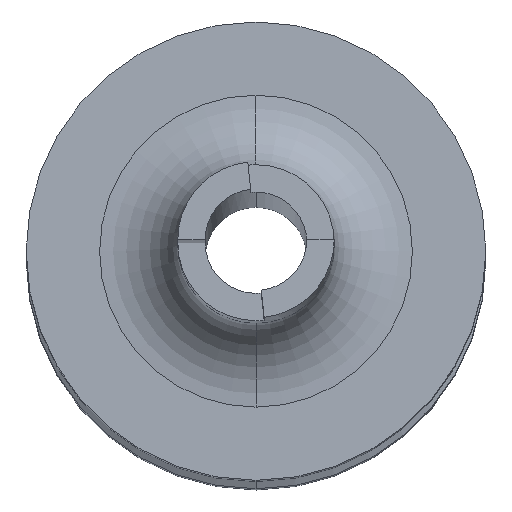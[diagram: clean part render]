
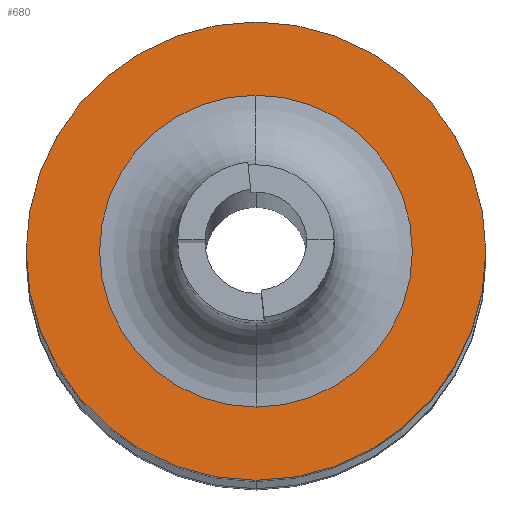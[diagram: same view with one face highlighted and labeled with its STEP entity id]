
A CAD part, left-side view. The second image highlights one B-rep face of the part: STEP entity #680.
In plain terms, the highlighted planar face has unit normal (-0.997, 0, 0.077).
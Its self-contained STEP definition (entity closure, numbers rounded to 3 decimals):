
#191=CARTESIAN_POINT('',(1259.479,0.,90.055));
#192=DIRECTION('',(0.997,0.,-0.077));
#193=DIRECTION('',(-0.077,0.,-0.997));
#194=AXIS2_PLACEMENT_3D('',#191,#192,#193);
#196=CARTESIAN_POINT('',(1259.479,0.,90.055));
#197=DIRECTION('',(-0.997,0.,0.077));
#198=DIRECTION('',(-0.077,0.,-0.997));
#199=AXIS2_PLACEMENT_3D('',#196,#197,#198);
#201=CARTESIAN_POINT('',(1259.479,0.,90.055));
#202=DIRECTION('',(0.997,0.,-0.077));
#203=DIRECTION('',(0.077,0.,0.997));
#204=AXIS2_PLACEMENT_3D('',#201,#202,#203);
#206=CARTESIAN_POINT('',(1259.479,0.,90.055));
#207=DIRECTION('',(0.997,0.,-0.077));
#208=DIRECTION('',(-0.077,0.,-0.997));
#209=AXIS2_PLACEMENT_3D('',#206,#207,#208);
#341=CARTESIAN_POINT('',(1258.343,0.,75.403));
#342=VERTEX_POINT('',#341);
#353=CARTESIAN_POINT('',(1260.615,0.,104.707));
#354=VERTEX_POINT('',#353);
#391=CARTESIAN_POINT('',(1260.252,0.,
100.025));
#392=CARTESIAN_POINT('',(1258.706,0.,
80.085));
#393=VERTEX_POINT('',#391);
#394=VERTEX_POINT('',#392);
#665=CARTESIAN_POINT('',(1259.479,0.,90.055));
#666=DIRECTION('',(-0.997,0.,0.077));
#667=DIRECTION('',(-0.077,0.,-0.997));
#668=AXIS2_PLACEMENT_3D('',#665,#666,#667);
#669=PLANE('',#668);
#670=ORIENTED_EDGE('',*,*,#647,.T.);
#671=ORIENTED_EDGE('',*,*,#658,.F.);
#672=EDGE_LOOP('',(#670,#671));
#673=FACE_OUTER_BOUND('',#672,.F.);
#675=ORIENTED_EDGE('',*,*,#674,.F.);
#677=ORIENTED_EDGE('',*,*,#676,.F.);
#678=EDGE_LOOP('',(#675,#677));
#679=FACE_BOUND('',#678,.F.);
#680=ADVANCED_FACE('',(#673,#679),#669,.T.);
#195=CIRCLE('',#194,14.696);
#200=CIRCLE('',#199,14.696);
#205=CIRCLE('',#204,10.);
#210=CIRCLE('',#209,10.);
#647=EDGE_CURVE('',#342,#354,#195,.T.);
#658=EDGE_CURVE('',#342,#354,#200,.T.);
#674=EDGE_CURVE('',#393,#394,#205,.T.);
#676=EDGE_CURVE('',#394,#393,#210,.T.);
